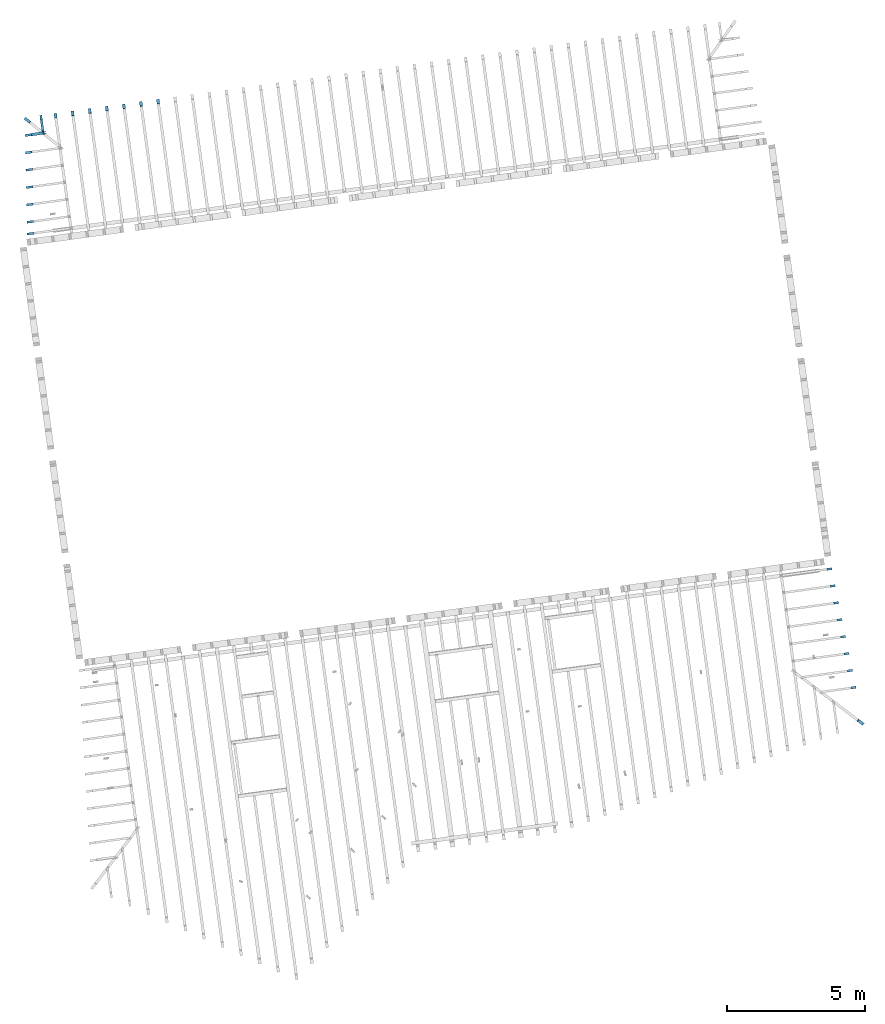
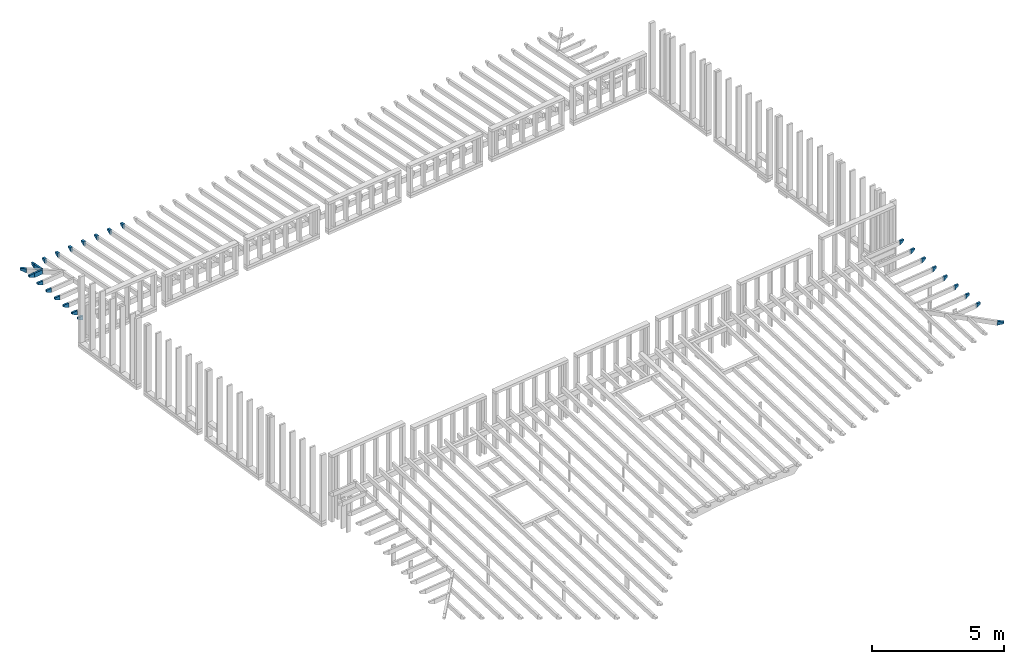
# One storey, part 14 of 16: 27 building element parts, 25 elements without a shape of their own.
"""IFC2X3 building model written with IfcOpenShell, lengths in metres."""

from ifc_helpers import new_model, entity, si_unit, converted_unit, derived_unit, money_unit, direction, frame, origin_with_axes, place, context, subcontext, project, spatial, faceted_brep, material, type_object, element, aggregate, save


model = new_model("IFC2X3")

# Units and contexts
model_context = context("Model", 3, precision=1e-05, world=origin_with_axes(), true_north=direction((0.0, 1.0)))
body_context = subcontext(model_context, "Body", "Model", "MODEL_VIEW")
ifc_project = project(units=[si_unit("LENGTHUNIT", "METRE"), si_unit("AREAUNIT", "SQUARE_METRE"), si_unit("VOLUMEUNIT", "CUBIC_METRE"), converted_unit("PLANEANGLEUNIT", "DEGREE", entity("IfcPlaneAngleMeasure", 0.0174532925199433), si_unit("PLANEANGLEUNIT", "RADIAN"), dimensions=[0, 0, 0, 0, 0, 0, 0]), money_unit("EUR"), converted_unit("TIMEUNIT", "Year", entity("IfcTimeMeasure", 31557600.0), si_unit("TIMEUNIT", "SECOND"), dimensions=[0, 0, 1, 0, 0, 0, 0]), si_unit("MASSUNIT", "GRAM", prefix="KILO"), si_unit("THERMODYNAMICTEMPERATUREUNIT", "DEGREE_CELSIUS"), si_unit("LUMINOUSINTENSITYUNIT", "LUMEN"), si_unit("ENERGYUNIT", "JOULE", prefix="MEGA"), derived_unit("THERMALCONDUCTANCEUNIT", [(si_unit("POWERUNIT", "WATT"), 1), (si_unit("LENGTHUNIT", "METRE"), -1), (si_unit("THERMODYNAMICTEMPERATUREUNIT", "KELVIN"), -1)]), derived_unit("SPECIFICHEATCAPACITYUNIT", [(si_unit("ENERGYUNIT", "JOULE"), 1), (si_unit("MASSUNIT", "GRAM", prefix="KILO"), -1), (si_unit("THERMODYNAMICTEMPERATUREUNIT", "KELVIN"), -1)]), derived_unit("MASSDENSITYUNIT", [(si_unit("MASSUNIT", "GRAM", prefix="KILO"), 1), (si_unit("VOLUMEUNIT", "CUBIC_METRE"), -1)])], contexts=[model_context])

# Site, building, storey
site_placement = place(None, origin_with_axes())
site = spatial("IfcSite", under=ifc_project, at=site_placement, Name="Gelände", CompositionType="ELEMENT")
building_placement = place(site_placement, origin_with_axes())
building = spatial("IfcBuilding", under=site, at=building_placement, Name="Gebäude", CompositionType="ELEMENT")
storey_placement = place(building_placement, frame((0.0, 0.0, 3.0), z_axis=(0.0, 0.0, 1.0), x_axis=(1.0, 0.0, 0.0)))
storey = spatial("IfcBuildingStorey", under=building, at=storey_placement, Name="ZG", CompositionType="ELEMENT", Elevation=3.0)

# Beam, building element part
beam_type_1 = type_object("IfcBeamType", Name="Verschiedene Strukturen - 2 Segmente - 100 x 200 x 4381 (4214+167)", PredefinedType="NOTDEFINED")
beam_1_placement = place(storey_placement, frame((86.89870892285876, -135.3424017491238, 1.028226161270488), z_axis=(0.0, 0.0, 1.0), x_axis=(0.9907484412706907, 0.1357111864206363, 0.0)))
beam_1 = element("IfcBeam", 1, at=beam_1_placement, inside=storey, type_object=beam_type_1, Name="Unterzug-034")
ifc_material = material(Name="Holz, Bauholz-hart")
building_element_part_1_placement = place(beam_1_placement, origin_with_axes())
building_element_part_1 = element("IfcBuildingElementPart", 2, at=building_element_part_1_placement, material=ifc_material, Name="Holz, Bauholz-hart", context=body_context, shape_type="Brep", body=[
    faceted_brep([(0.04999999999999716, 4.370583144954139, -0.3091623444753), (0.04999999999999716, 4.197525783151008, -0.4202574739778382), (-0.05000000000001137, 4.197525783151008, -0.4202574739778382), (-0.04999999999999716, 4.370583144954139, -0.3091623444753), (0.04999999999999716, 4.374770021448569, -0.2292719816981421), (0.05000000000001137, 4.207992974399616, -0.2205315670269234), (-0.04999999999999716, 4.207992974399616, -0.2205315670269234), (-0.04999999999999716, 4.374770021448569, -0.2292719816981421)], [[[0, 1, 2, 3]], [[4, 5, 1, 0]], [[5, 6, 2, 1]], [[3, 2, 6, 7]], [[4, 0, 3, 7]], [[7, 6, 5, 4]]]),
])
aggregate(beam_1, [building_element_part_1])

beam_type_2 = type_object("IfcBeamType", Name="Verschiedene Strukturen - 2 Segmente - 80 x 200 x 1897 (183+1715)", PredefinedType="NOTDEFINED")
beam_2_placement = place(storey_placement, frame((113.8209712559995, -147.5921326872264, 1.799619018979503), z_axis=(0.0, 0.0, 1.0), x_axis=(-0.135711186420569, 0.9907484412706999, 0.0)))
beam_2 = element("IfcBeam", 3, at=beam_2_placement, inside=storey, type_object=beam_type_2, Name="Unterzug-034")
building_element_part_2_placement = place(beam_2_placement, origin_with_axes())
building_element_part_2 = element("IfcBuildingElementPart", 4, at=building_element_part_2_placement, material=ifc_material, Name="Holz, Bauholz-hart", context=body_context, shape_type="Brep", body=[
    faceted_brep([(0.04000000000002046, 0.1825028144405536, -0.2000000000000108), (0.03999999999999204, 0.0, -0.08000000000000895), (-0.03999999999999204, 0.0, -0.08000000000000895), (-0.03999999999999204, 0.1825028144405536, -0.2000000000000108), (0.04000000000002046, 0.1825028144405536, 0.0), (0.03999999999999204, 0.0, 0.0), (-0.03999999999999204, 0.0, 0.0), (-0.03999999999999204, 0.1825028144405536, 0.0)], [[[0, 1, 2, 3]], [[4, 5, 1, 0]], [[5, 6, 2, 1]], [[3, 2, 6, 7]], [[4, 0, 3, 7]], [[7, 6, 5, 4]]]),
])
aggregate(beam_2, [building_element_part_2])

beam_type_3 = type_object("IfcBeamType", Name="Verschiedene Strukturen - 2 Segmente - 80 x 200 x 1397 (183+1214)", PredefinedType="NOTDEFINED")
beam_3_placement = place(storey_placement, frame((114.6995693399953, -151.8876372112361, 1.184752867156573), z_axis=(0.0, 0.0, 1.0), x_axis=(-0.1357111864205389, 0.990748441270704, 0.0)))
beam_3 = element("IfcBeam", 5, at=beam_3_placement, inside=storey, type_object=beam_type_3, Name="Unterzug-034")
building_element_part_3_placement = place(beam_3_placement, origin_with_axes())
building_element_part_3 = element("IfcBuildingElementPart", 6, at=building_element_part_3_placement, material=ifc_material, Name="Holz, Bauholz-hart", context=body_context, shape_type="Brep", body=[
    faceted_brep([(0.03999999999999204, 0.1825028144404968, -0.1999999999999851), (0.03999999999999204, 0.0, -0.0799999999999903), (-0.03999999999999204, 0.0, -0.0799999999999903), (-0.04000000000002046, 0.1825028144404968, -0.1999999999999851), (0.03999999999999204, 0.1825028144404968, 0.0), (0.03999999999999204, 0.0, 0.0), (-0.03999999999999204, 0.0, 0.0), (-0.04000000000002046, 0.1825028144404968, 0.0)], [[[0, 1, 2, 3]], [[4, 5, 1, 0]], [[5, 6, 2, 1]], [[3, 2, 6, 7]], [[4, 0, 3, 7]], [[7, 6, 5, 4]]]),
])
aggregate(beam_3, [building_element_part_3])

beam_type_4 = type_object("IfcBeamType", Name="Verschiedene Strukturen - 2 Segmente - 80 x 200 x 1981 (183+1798)", PredefinedType="NOTDEFINED")
beam_4_placement = place(storey_placement, frame((114.5740553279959, -151.2739937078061, 1.272590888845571), z_axis=(0.0, 0.0, 1.0), x_axis=(-0.1357111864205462, 0.990748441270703, 0.0)))
beam_4 = element("IfcBeam", 7, at=beam_4_placement, inside=storey, type_object=beam_type_4, Name="Unterzug-034")
building_element_part_4_placement = place(beam_4_placement, origin_with_axes())
building_element_part_4 = element("IfcBuildingElementPart", 8, at=building_element_part_4_placement, material=ifc_material, Name="Holz, Bauholz-hart", context=body_context, shape_type="Brep", body=[
    faceted_brep([(0.04000000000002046, 0.182502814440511, -0.1999999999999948), (0.04000000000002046, 0.0, -0.08000000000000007), (-0.03999999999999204, 0.0, -0.08000000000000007), (-0.03999999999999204, 0.1825028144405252, -0.1999999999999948), (0.04000000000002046, 0.182502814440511, 0.0), (0.04000000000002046, 0.0, 0.0), (-0.03999999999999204, 0.0, 0.0), (-0.03999999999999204, 0.1825028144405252, 0.0)], [[[0, 1, 2, 3]], [[4, 5, 1, 0]], [[5, 6, 2, 1]], [[3, 2, 6, 7]], [[4, 0, 3, 7]], [[7, 6, 5, 4]]]),
])
aggregate(beam_4, [building_element_part_4])

beam_type_5 = type_object("IfcBeamType", Name="Verschiedene Strukturen - 2 Segmente - 80 x 200 x 1938 (183+1756)", PredefinedType="NOTDEFINED")
beam_5_placement = place(storey_placement, frame((113.9464852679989, -148.2057761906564, 1.711780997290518), z_axis=(0.0, 0.0, 1.0), x_axis=(-0.1357111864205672, 0.9907484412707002, 0.0)))
beam_5 = element("IfcBeam", 9, at=beam_5_placement, inside=storey, type_object=beam_type_5, Name="Unterzug-034")
building_element_part_5_placement = place(beam_5_placement, origin_with_axes())
building_element_part_5 = element("IfcBuildingElementPart", 10, at=building_element_part_5_placement, material=ifc_material, Name="Holz, Bauholz-hart", context=body_context, shape_type="Brep", body=[
    faceted_brep([(0.04000000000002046, 0.1825028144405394, -0.1999999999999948), (0.04000000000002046, 0.0, -0.08000000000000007), (-0.03999999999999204, 0.0, -0.08000000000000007), (-0.03999999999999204, 0.1825028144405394, -0.1999999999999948), (0.04000000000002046, 0.1825028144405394, 0.0), (0.04000000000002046, 0.0, 0.0), (-0.03999999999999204, 0.0, 0.0), (-0.03999999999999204, 0.1825028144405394, 0.0)], [[[0, 1, 2, 3]], [[4, 5, 1, 0]], [[5, 6, 2, 1]], [[3, 2, 6, 7]], [[4, 0, 3, 7]], [[7, 6, 5, 4]]]),
])
aggregate(beam_5, [building_element_part_5])

beam_type_6 = type_object("IfcBeamType", Name="Verschiedene Strukturen - 2 Segmente - 80 x 200 x 1979 (183+1797)", PredefinedType="NOTDEFINED")
beam_6_placement = place(storey_placement, frame((114.0719992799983, -148.8194196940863, 1.623942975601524), z_axis=(0.0, 0.0, 1.0), x_axis=(-0.1357111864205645, 0.9907484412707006, 0.0)))
beam_6 = element("IfcBeam", 11, at=beam_6_placement, inside=storey, type_object=beam_type_6, Name="Unterzug-034")
building_element_part_6_placement = place(beam_6_placement, origin_with_axes())
building_element_part_6 = element("IfcBuildingElementPart", 12, at=building_element_part_6_placement, material=ifc_material, Name="Holz, Bauholz-hart", context=body_context, shape_type="Brep", body=[
    faceted_brep([(0.04000000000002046, 0.182502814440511, -0.2000000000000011), (0.04000000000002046, 0.0, -0.08000000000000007), (-0.03999999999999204, 0.0, -0.08000000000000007), (-0.03999999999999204, 0.1825028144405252, -0.2000000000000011), (0.04000000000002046, 0.182502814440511, 0.0), (0.04000000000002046, 0.0, 0.0), (-0.03999999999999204, 0.0, 0.0), (-0.03999999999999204, 0.1825028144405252, 0.0)], [[[0, 1, 2, 3]], [[4, 5, 1, 0]], [[5, 6, 2, 1]], [[3, 2, 6, 7]], [[4, 0, 3, 7]], [[7, 6, 5, 4]]]),
])
aggregate(beam_6, [building_element_part_6])

beam_type_7 = type_object("IfcBeamType", Name="Verschiedene Strukturen - 2 Segmente - 100 x 200 x 3283 (248+3035)", PredefinedType="NOTDEFINED")
beam_7_placement = place(storey_placement, frame((114.9690103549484, -153.2338985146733, 0.9921595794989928), z_axis=(0.0, 0.0, 1.0), x_axis=(0.604602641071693, 0.7965272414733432, 0.0)))
beam_7 = element("IfcBeam", 13, at=beam_7_placement, inside=storey, type_object=beam_type_7, Name="Unterzug-034")
building_element_part_7_placement = place(beam_7_placement, origin_with_axes())
building_element_part_7 = element("IfcBuildingElementPart", 14, at=building_element_part_7_placement, material=ifc_material, Name="Holz, Bauholz-hart", context=body_context, shape_type="Brep", body=[
    faceted_brep([(0.04999999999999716, 0.2586016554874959, -0.1752860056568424), (0.05000000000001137, 0.0, -0.07658848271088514), (-0.04999999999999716, 0.0, -0.07658848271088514), (-0.05000000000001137, 0.2586016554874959, -0.1752860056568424), (0.05000000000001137, 0.2388236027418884, 0.02373366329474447), (0.05000000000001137, 0.0, 0.0), (-0.04999999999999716, 0.0, 0.0), (-0.04999999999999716, 0.2388236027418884, 0.02373366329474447)], [[[0, 1, 2, 3]], [[4, 5, 1, 0]], [[5, 6, 2, 1]], [[3, 2, 6, 7]], [[4, 0, 3, 7]], [[7, 6, 5, 4]]]),
])
aggregate(beam_7, [building_element_part_7])

beam_8_placement = place(storey_placement, frame((86.27949114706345, -135.4272212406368, 1.028226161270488), z_axis=(0.0, 0.0, 1.0), x_axis=(0.9907484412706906, 0.1357111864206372, 0.0)))
beam_8 = element("IfcBeam", 15, at=beam_8_placement, inside=storey, type_object=beam_type_1, Name="Unterzug-034")
building_element_part_8_placement = place(beam_8_placement, origin_with_axes())
building_element_part_8 = element("IfcBuildingElementPart", 16, at=building_element_part_8_placement, material=ifc_material, Name="Holz, Bauholz-hart", context=body_context, shape_type="Brep", body=[
    faceted_brep([(0.04999999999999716, 4.370321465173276, -0.3141554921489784), (0.04999999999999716, 4.197525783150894, -0.420257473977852), (-0.04999999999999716, 4.197525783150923, -0.420257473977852), (-0.04999999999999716, 4.370321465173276, -0.3141554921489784), (0.05000000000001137, 4.374770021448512, -0.2292719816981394), (0.04999999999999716, 4.207992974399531, -0.2205315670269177), (-0.05000000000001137, 4.207992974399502, -0.2205315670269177), (-0.05000000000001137, 4.374770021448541, -0.2292719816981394)], [[[0, 1, 2, 3]], [[4, 5, 1, 0]], [[5, 6, 2, 1]], [[3, 2, 6, 7]], [[4, 0, 3, 7]], [[7, 6, 5, 4]]]),
])
aggregate(beam_8, [building_element_part_8])

beam_type_8 = type_object("IfcBeamType", Name="Verschiedene Strukturen - 2 Segmente - 80 x 200 x 2021 (183+1838)", PredefinedType="NOTDEFINED")
beam_9_placement = place(storey_placement, frame((114.1975132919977, -149.4330631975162, 1.536104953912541), z_axis=(0.0, 0.0, 1.0), x_axis=(-0.1357111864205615, 0.9907484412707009, 0.0)))
beam_9 = element("IfcBeam", 17, at=beam_9_placement, inside=storey, type_object=beam_type_8, Name="Unterzug-034")
building_element_part_9_placement = place(beam_9_placement, origin_with_axes())
building_element_part_9 = element("IfcBuildingElementPart", 18, at=building_element_part_9_placement, material=ifc_material, Name="Holz, Bauholz-hart", context=body_context, shape_type="Brep", body=[
    faceted_brep([(0.03999999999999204, 0.1825028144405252, -0.1999999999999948), (0.03999999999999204, 0.0, -0.08000000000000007), (-0.04000000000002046, 0.0, -0.08000000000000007), (-0.03999999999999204, 0.182502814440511, -0.1999999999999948), (0.03999999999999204, 0.1825028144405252, 0.0), (0.03999999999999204, 0.0, 0.0), (-0.04000000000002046, 0.0, 0.0), (-0.03999999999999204, 0.182502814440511, 0.0)], [[[0, 1, 2, 3]], [[4, 5, 1, 0]], [[5, 6, 2, 1]], [[3, 2, 6, 7]], [[4, 0, 3, 7]], [[7, 6, 5, 4]]]),
])
aggregate(beam_9, [building_element_part_9])

beam_type_9 = type_object("IfcBeamType", Name="Verschiedene Strukturen - 2 Segmente - 80 x 200 x 2103 (183+1920)", PredefinedType="NOTDEFINED")
beam_10_placement = place(storey_placement, frame((114.4485413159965, -150.6603502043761, 1.360428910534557), z_axis=(0.0, 0.0, 1.0), x_axis=(-0.1357111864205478, 0.9907484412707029, 0.0)))
beam_10 = element("IfcBeam", 19, at=beam_10_placement, inside=storey, type_object=beam_type_9, Name="Unterzug-034")
building_element_part_10_placement = place(beam_10_placement, origin_with_axes())
building_element_part_10 = element("IfcBuildingElementPart", 20, at=building_element_part_10_placement, material=ifc_material, Name="Holz, Bauholz-hart", context=body_context, shape_type="Brep", body=[
    faceted_brep([(0.03999999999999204, 0.1825028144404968, -0.1999999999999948), (0.03999999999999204, 0.0, -0.08000000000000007), (-0.04000000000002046, 0.0, -0.08000000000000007), (-0.03999999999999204, 0.182502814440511, -0.1999999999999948), (0.03999999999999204, 0.1825028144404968, 0.0), (0.03999999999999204, 0.0, 0.0), (-0.04000000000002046, 0.0, 0.0), (-0.03999999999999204, 0.182502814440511, 0.0)], [[[0, 1, 2, 3]], [[4, 5, 1, 0]], [[5, 6, 2, 1]], [[3, 2, 6, 7]], [[4, 0, 3, 7]], [[7, 6, 5, 4]]]),
])
aggregate(beam_10, [building_element_part_10])

beam_type_10 = type_object("IfcBeamType", Name="Verschiedene Strukturen - 2 Segmente - 80 x 200 x 2062 (183+1879)", PredefinedType="NOTDEFINED")
beam_11_placement = place(storey_placement, frame((114.3230273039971, -150.0467067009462, 1.448266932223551), z_axis=(0.0, 0.0, 1.0), x_axis=(-0.135711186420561, 0.9907484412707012, 0.0)))
beam_11 = element("IfcBeam", 21, at=beam_11_placement, inside=storey, type_object=beam_type_10, Name="Unterzug-034")
building_element_part_11_placement = place(beam_11_placement, origin_with_axes())
building_element_part_11 = element("IfcBuildingElementPart", 22, at=building_element_part_11_placement, material=ifc_material, Name="Holz, Bauholz-hart", context=body_context, shape_type="Brep", body=[
    faceted_brep([(0.03999999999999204, 0.182502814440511, -0.1999999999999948), (0.03999999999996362, 0.0, -0.08000000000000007), (-0.04000000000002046, 0.0, -0.08000000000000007), (-0.04000000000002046, 0.182502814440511, -0.1999999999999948), (0.03999999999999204, 0.182502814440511, 0.0), (0.03999999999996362, 0.0, 0.0), (-0.04000000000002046, 0.0, 0.0), (-0.04000000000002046, 0.182502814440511, 0.0)], [[[0, 1, 2, 3]], [[4, 5, 1, 0]], [[5, 6, 2, 1]], [[3, 2, 6, 7]], [[4, 0, 3, 7]], [[7, 6, 5, 4]]]),
])
aggregate(beam_11, [building_element_part_11])

beam_type_11 = type_object("IfcBeamType", Name="Verschiedene Strukturen - 2 Segmente - 80 x 200 x 1652 (1412+240)", PredefinedType="NOTDEFINED")
beam_12_placement = place(storey_placement, frame((86.2556638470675, -135.2532719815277, 1.019024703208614), z_axis=(0.0, 0.0, 1.0), x_axis=(-0.1357111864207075, 0.990748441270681, 0.0)))
beam_12 = element("IfcBeam", 23, at=beam_12_placement, inside=storey, type_object=beam_type_11, Name="Unterzug-034")
building_element_part_12_placement = place(beam_12_placement, origin_with_axes())
building_element_part_12 = element("IfcBuildingElementPart", 24, at=building_element_part_12_placement, material=ifc_material, Name="Holz, Bauholz-hart", context=body_context, shape_type="Brep", body=[
    faceted_brep([(0.03999999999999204, 1.602367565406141, -0.08499999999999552), (0.03999999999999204, 1.362367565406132, -0.2000000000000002), (-0.04000000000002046, 1.362367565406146, -0.2000000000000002), (-0.04000000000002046, 1.602367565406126, -0.08499999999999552), (0.03999999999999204, 1.602367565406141, 0.0), (0.03999999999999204, 1.362367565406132, 0.0), (-0.04000000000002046, 1.362367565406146, 0.0), (-0.04000000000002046, 1.602367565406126, 0.0)], [[[0, 1, 2, 3]], [[4, 5, 1, 0]], [[5, 6, 2, 1]], [[3, 2, 6, 7]], [[4, 0, 3, 7]], [[7, 6, 5, 4]]]),
])
aggregate(beam_12, [building_element_part_12])

beam_type_12 = type_object("IfcBeamType", Name="Verschiedene Strukturen - 2 Segmente - 80 x 200 x 1603 (1363+240)", PredefinedType="NOTDEFINED")
beam_13_placement = place(storey_placement, frame((86.1979865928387, -134.8322038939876, 0.9967513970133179), z_axis=(0.0, 0.0, 1.0), x_axis=(-0.1357111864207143, 0.9907484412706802, 0.0)))
beam_13 = element("IfcBeam", 25, at=beam_13_placement, inside=storey, type_object=beam_type_12, Name="Unterzug-034")
building_element_part_13_placement = place(beam_13_placement, origin_with_axes())
building_element_part_13 = element("IfcBuildingElementPart", 26, at=building_element_part_13_placement, material=ifc_material, Name="Holz, Bauholz-hart", context=body_context, shape_type="Brep", body=[
    faceted_brep([(0.03999999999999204, 1.552948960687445, -0.08499999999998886), (0.03999999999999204, 1.312948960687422, -0.1999999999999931), (-0.04000000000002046, 1.31294896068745, -0.1999999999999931), (-0.03999999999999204, 1.552948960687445, -0.08499999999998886), (0.03999999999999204, 1.552948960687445, 0.0), (0.03999999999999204, 1.312948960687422, 0.0), (-0.04000000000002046, 1.31294896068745, 0.0), (-0.03999999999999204, 1.552948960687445, 0.0)], [[[0, 1, 2, 3]], [[4, 5, 1, 0]], [[5, 6, 2, 1]], [[3, 2, 6, 7]], [[4, 0, 3, 7]], [[7, 6, 5, 4]]]),
])
aggregate(beam_13, [building_element_part_13])

beam_type_13 = type_object("IfcBeamType", Name="Verschiedene Strukturen - 2 Segmente - 80 x 200 x 1530 (1290+240)", PredefinedType="NOTDEFINED")
beam_14_placement = place(storey_placement, frame((86.11316710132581, -134.2129861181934, 0.963996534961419), z_axis=(0.0, 0.0, 1.0), x_axis=(-0.1357111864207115, 0.9907484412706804, 0.0)))
beam_14 = element("IfcBeam", 27, at=beam_14_placement, inside=storey, type_object=beam_type_13, Name="Unterzug-034")
building_element_part_14_placement = place(beam_14_placement, origin_with_axes())
building_element_part_14 = element("IfcBuildingElementPart", 28, at=building_element_part_14_placement, material=ifc_material, Name="Holz, Bauholz-hart", context=body_context, shape_type="Brep", body=[
    faceted_brep([(0.03999999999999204, 1.480274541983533, -0.08499999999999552), (0.03999999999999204, 1.240274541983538, -0.1999999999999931), (-0.04000000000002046, 1.240274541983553, -0.1999999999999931), (-0.04000000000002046, 1.480274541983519, -0.08499999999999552), (0.03999999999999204, 1.480274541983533, 0.0), (0.03999999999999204, 1.240274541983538, 0.0), (-0.04000000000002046, 1.240274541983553, 0.0), (-0.04000000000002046, 1.480274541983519, 0.0)], [[[0, 1, 2, 3]], [[4, 5, 1, 0]], [[5, 6, 2, 1]], [[3, 2, 6, 7]], [[4, 0, 3, 7]], [[7, 6, 5, 4]]]),
])
aggregate(beam_14, [building_element_part_14])

beam_type_14 = type_object("IfcBeamType", Name="Verschiedene Strukturen - 2 Segmente - 80 x 200 x 1458 (1218+240)", PredefinedType="NOTDEFINED")
beam_15_placement = place(storey_placement, frame((86.02834760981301, -133.5937683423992, 0.9312416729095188), z_axis=(0.0, 0.0, 1.0), x_axis=(-0.1357111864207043, 0.9907484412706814, 0.0)))
beam_15 = element("IfcBeam", 29, at=beam_15_placement, inside=storey, type_object=beam_type_14, Name="Unterzug-034")
building_element_part_15_placement = place(beam_15_placement, origin_with_axes())
building_element_part_15 = element("IfcBuildingElementPart", 30, at=building_element_part_15_placement, material=ifc_material, Name="Holz, Bauholz-hart", context=body_context, shape_type="Brep", body=[
    faceted_brep([(0.04000000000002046, 1.407600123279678, -0.08499999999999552), (0.03999999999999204, 1.167600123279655, -0.2000000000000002), (-0.04000000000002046, 1.167600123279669, -0.2000000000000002), (-0.04000000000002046, 1.407600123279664, -0.08499999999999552), (0.04000000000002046, 1.407600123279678, 0.0), (0.03999999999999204, 1.167600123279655, 0.0), (-0.04000000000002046, 1.167600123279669, 0.0), (-0.04000000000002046, 1.407600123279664, 0.0)], [[[0, 1, 2, 3]], [[4, 5, 1, 0]], [[5, 6, 2, 1]], [[3, 2, 6, 7]], [[4, 0, 3, 7]], [[7, 6, 5, 4]]]),
])
aggregate(beam_15, [building_element_part_15])

beam_type_15 = type_object("IfcBeamType", Name="Verschiedene Strukturen - 2 Segmente - 80 x 200 x 1385 (1145+240)", PredefinedType="NOTDEFINED")
beam_16_placement = place(storey_placement, frame((85.94352811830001, -132.9745505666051, 0.8984868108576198), z_axis=(0.0, 0.0, 1.0), x_axis=(-0.1357111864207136, 0.9907484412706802, 0.0)))
beam_16 = element("IfcBeam", 31, at=beam_16_placement, inside=storey, type_object=beam_type_15, Name="Unterzug-034")
building_element_part_16_placement = place(beam_16_placement, origin_with_axes())
building_element_part_16 = element("IfcBuildingElementPart", 32, at=building_element_part_16_placement, material=ifc_material, Name="Holz, Bauholz-hart", context=body_context, shape_type="Brep", body=[
    faceted_brep([(0.03999999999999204, 1.33492570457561, -0.08500000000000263), (0.03999999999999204, 1.094925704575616, -0.2000000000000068), (-0.04000000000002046, 1.09492570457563, -0.2000000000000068), (-0.04000000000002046, 1.33492570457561, -0.08500000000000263), (0.03999999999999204, 1.33492570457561, 0.0), (0.03999999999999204, 1.094925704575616, 0.0), (-0.04000000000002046, 1.09492570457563, 0.0), (-0.04000000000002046, 1.33492570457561, 0.0)], [[[0, 1, 2, 3]], [[4, 5, 1, 0]], [[5, 6, 2, 1]], [[3, 2, 6, 7]], [[4, 0, 3, 7]], [[7, 6, 5, 4]]]),
])
aggregate(beam_16, [building_element_part_16])

beam_type_16 = type_object("IfcBeamType", Name="Verschiedene Strukturen - 2 Segmente - 80 x 200 x 1312 (1072+240)", PredefinedType="NOTDEFINED")
beam_17_placement = place(storey_placement, frame((85.85870862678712, -132.3553327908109, 0.865731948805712), z_axis=(0.0, 0.0, 1.0), x_axis=(-0.1357111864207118, 0.9907484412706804, 0.0)))
beam_17 = element("IfcBeam", 33, at=beam_17_placement, inside=storey, type_object=beam_type_16, Name="Unterzug-034")
building_element_part_17_placement = place(beam_17_placement, origin_with_axes())
building_element_part_17 = element("IfcBuildingElementPart", 34, at=building_element_part_17_placement, material=ifc_material, Name="Holz, Bauholz-hart", context=body_context, shape_type="Brep", body=[
    faceted_brep([(0.03999999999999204, 1.262251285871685, -0.08500000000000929), (0.03999999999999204, 1.022251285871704, -0.2000000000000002), (-0.03999999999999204, 1.022251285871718, -0.2000000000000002), (-0.03999999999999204, 1.262251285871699, -0.08500000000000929), (0.03999999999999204, 1.262251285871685, 0.0), (0.03999999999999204, 1.022251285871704, 0.0), (-0.03999999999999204, 1.022251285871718, 0.0), (-0.03999999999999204, 1.262251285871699, 0.0)], [[[0, 1, 2, 3]], [[4, 5, 1, 0]], [[5, 6, 2, 1]], [[3, 2, 6, 7]], [[4, 0, 3, 7]], [[7, 6, 5, 4]]]),
])
aggregate(beam_17, [building_element_part_17])

beam_type_17 = type_object("IfcBeamType", Name="Verschiedene Strukturen - 2 Segmente - 80 x 200 x 757 (517+240)", PredefinedType="NOTDEFINED")
beam_18_placement = place(storey_placement, frame((85.24146001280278, -131.8090463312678, 0.8329771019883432), z_axis=(0.0, 0.0, 1.0), x_axis=(-0.135711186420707, 0.9907484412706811, 0.0)))
beam_18 = element("IfcBeam", 35, at=beam_18_placement, inside=storey, type_object=beam_type_17, Name="Unterzug-034")
building_element_part_18_placement = place(beam_18_placement, origin_with_axes())
building_element_part_18 = element("IfcBuildingElementPart", 36, at=building_element_part_18_placement, material=ifc_material, Name="Holz, Bauholz-hart", context=body_context, shape_type="Brep", body=[
    faceted_brep([(-0.03999999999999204, 0.4121759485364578, 0.0), (-0.03999999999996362, 0.03110007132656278, 0.0), (-0.03398706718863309, 0.03667265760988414, 0.0), (0.03398693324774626, -0.03667265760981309, 0.0), (0.03398693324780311, -0.105241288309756, 0.0), (0.03999999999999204, -0.1052412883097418, 0.0), (0.04000000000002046, 0.412175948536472, 0.0), (-0.03999999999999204, -0.105241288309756, -0.199832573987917), (-0.03999999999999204, 0.03110007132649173, -0.1998325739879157), (-0.03999999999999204, 0.4121759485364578, -0.2000000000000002), (-0.03999999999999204, -0.105241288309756, -0.2000000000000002), (0.03999999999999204, 0.1052414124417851, -0.003877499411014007), (-0.03680532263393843, 0.03406079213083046, -0.1999999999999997), (0.04000000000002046, 0.1052414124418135, -0.2000000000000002), (0.03999999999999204, -0.03109994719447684, -0.0003151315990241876), (0.03999999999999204, -0.1052412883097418, -0.0003151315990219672), (0.04000000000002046, 0.412175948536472, -0.2000000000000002), (-0.03680532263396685, -0.105241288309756, -0.2000000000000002)], [[[0, 1, 2, 3, 4, 5, 6]], [[7, 8, 1, 0, 9, 10]], [[11, 2, 1, 8, 12, 13]], [[11, 14, 3, 2]], [[4, 3, 14, 15]], [[15, 5, 4]], [[14, 11, 13, 16, 6, 5, 15]], [[0, 6, 16, 9]], [[17, 12, 8, 7]], [[16, 13, 12, 17, 10, 9]], [[7, 10, 17]]]),
])

# Beam, building element parts
beam_type_18 = type_object("IfcBeamType", Name="Verschiedene Strukturen - 2 Segmente - 80 x 200 x 696 (529+167)", PredefinedType="NOTDEFINED")
beam_19_placement = place(storey_placement, frame((85.24987622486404, -131.8159538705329, 0.8333956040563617), z_axis=(0.0, 0.0, 1.0), x_axis=(0.9907484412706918, 0.1357111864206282, 0.0)))
beam_19 = element("IfcBeam", 37, at=beam_19_placement, inside=storey, type_object=beam_type_18, Name="Unterzug-034")
building_element_part_19_placement = place(beam_19_placement, origin_with_axes())
building_element_part_19 = element("IfcBuildingElementPart", 38, at=building_element_part_19_placement, material=ifc_material, Name="Holz, Bauholz-hart", context=body_context, shape_type="Brep", body=[
    faceted_brep([(-0.04000000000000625, 0.1167183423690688, -0.2044834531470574), (0.03188360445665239, 0.03915448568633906, -0.2004185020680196), (0.0400000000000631, 0.03039673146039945, -0.199959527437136), (0.04000000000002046, 0.03039673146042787, -0.001593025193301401), (-0.03999999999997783, 0.1167183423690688, -0.006116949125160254), (0.04000000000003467, -0.04839663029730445, -0.197738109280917), (-0.04000000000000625, 0.03792505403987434, -0.2022620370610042), (0.04000000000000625, 0.4799380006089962, -0.2254269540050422), (0.04000000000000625, 0.490405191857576, -0.02570104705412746), (-0.03999999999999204, 0.4904051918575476, -0.02570104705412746), (-0.03999999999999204, 0.4799380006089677, -0.2254269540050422)], [[[0, 1, 2, 3, 4]], [[5, 2, 1, 0, 6]], [[2, 5, 7, 8, 3]], [[9, 4, 3, 8]], [[6, 0, 4, 9, 10]], [[7, 5, 6, 10]], [[10, 9, 8, 7]]]),
])
building_element_part_20_placement = place(beam_19_placement, origin_with_axes())
building_element_part_20 = element("IfcBuildingElementPart", 39, at=building_element_part_20_placement, material=ifc_material, Name="Holz, Bauholz-hart", context=body_context, shape_type="Brep", body=[
    faceted_brep([(0.04000000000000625, 0.6527336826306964, -0.1193249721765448), (0.04000000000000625, 0.4799380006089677, -0.2254269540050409), (-0.03999999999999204, 0.4799380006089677, -0.2254269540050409), (-0.03999999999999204, 0.652733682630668, -0.1193249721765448), (0.04000000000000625, 0.6571822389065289, -0.03444146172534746), (0.04000000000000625, 0.490405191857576, -0.02570104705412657), (-0.03999999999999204, 0.4904051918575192, -0.02570104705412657), (-0.03999999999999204, 0.6571822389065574, -0.03444146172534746)], [[[0, 1, 2, 3]], [[4, 5, 1, 0]], [[5, 6, 2, 1]], [[3, 2, 6, 7]], [[4, 0, 3, 7]], [[7, 6, 5, 4]]]),
])
aggregate(beam_19, [building_element_part_19, building_element_part_20])

# Building element part
building_element_part_21_placement = place(beam_18_placement, origin_with_axes())
building_element_part_21 = element("IfcBuildingElementPart", 40, at=building_element_part_21_placement, material=ifc_material, Name="Holz, Bauholz-hart", context=body_context, shape_type="Brep", body=[
    faceted_brep([(0.04000000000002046, 0.6521759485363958, -0.08500000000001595), (0.04000000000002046, 0.4121759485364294, -0.2000000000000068), (-0.03999999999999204, 0.4121759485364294, -0.2000000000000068), (-0.03999999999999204, 0.65217594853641, -0.08500000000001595), (0.04000000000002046, 0.6521759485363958, 0.0), (0.04000000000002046, 0.4121759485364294, 0.0), (-0.03999999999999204, 0.4121759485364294, 0.0), (-0.03999999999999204, 0.65217594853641, 0.0)], [[[0, 1, 2, 3]], [[4, 5, 1, 0]], [[5, 6, 2, 1]], [[3, 2, 6, 7]], [[4, 0, 3, 7]], [[7, 6, 5, 4]]]),
])

aggregate(beam_18, [building_element_part_18, building_element_part_21])

# Beam, building element part
beam_20_placement = place(storey_placement, frame((87.51792669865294, -135.2575822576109, 1.028226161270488), z_axis=(0.0, 0.0, 1.0), x_axis=(0.9907484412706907, 0.1357111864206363, 0.0)))
beam_20 = element("IfcBeam", 41, at=beam_20_placement, inside=storey, type_object=beam_type_1, Name="Unterzug-034")
building_element_part_22_placement = place(beam_20_placement, origin_with_axes())
building_element_part_22 = element("IfcBuildingElementPart", 42, at=building_element_part_22_placement, material=ifc_material, Name="Holz, Bauholz-hart", context=body_context, shape_type="Brep", body=[
    faceted_brep([(0.04999999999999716, 4.370583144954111, -0.3091623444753), (0.04999999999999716, 4.197525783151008, -0.4202574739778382), (-0.05000000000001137, 4.197525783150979, -0.4202574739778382), (-0.04999999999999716, 4.370583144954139, -0.3091623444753), (0.04999999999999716, 4.374770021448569, -0.2292719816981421), (0.04999999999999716, 4.207992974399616, -0.2205315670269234), (-0.05000000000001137, 4.207992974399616, -0.2205315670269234), (-0.05000000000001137, 4.374770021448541, -0.2292719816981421)], [[[0, 1, 2, 3]], [[4, 5, 1, 0]], [[5, 6, 2, 1]], [[3, 2, 6, 7]], [[4, 0, 3, 7]], [[7, 6, 5, 4]]]),
])
aggregate(beam_20, [building_element_part_22])

beam_21_placement = place(storey_placement, frame((88.13714447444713, -135.172762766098, 1.028226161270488), z_axis=(0.0, 0.0, 1.0), x_axis=(0.9907484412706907, 0.1357111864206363, 0.0)))
beam_21 = element("IfcBeam", 43, at=beam_21_placement, inside=storey, type_object=beam_type_1, Name="Unterzug-034")
building_element_part_23_placement = place(beam_21_placement, origin_with_axes())
building_element_part_23 = element("IfcBuildingElementPart", 44, at=building_element_part_23_placement, material=ifc_material, Name="Holz, Bauholz-hart", context=body_context, shape_type="Brep", body=[
    faceted_brep([(0.05000000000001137, 4.370583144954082, -0.3091623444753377), (0.04999999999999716, 4.197525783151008, -0.4202574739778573), (-0.04999999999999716, 4.197525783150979, -0.4202574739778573), (-0.04999999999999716, 4.370583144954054, -0.3091623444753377), (0.04999999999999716, 4.374770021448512, -0.2292719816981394), (0.04999999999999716, 4.207992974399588, -0.2205315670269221), (-0.05000000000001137, 4.207992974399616, -0.2205315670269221), (-0.04999999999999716, 4.374770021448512, -0.2292719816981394)], [[[0, 1, 2, 3]], [[4, 5, 1, 0]], [[5, 6, 2, 1]], [[3, 2, 6, 7]], [[4, 0, 3, 7]], [[7, 6, 5, 4]]]),
])
aggregate(beam_21, [building_element_part_23])

beam_type_19 = type_object("IfcBeamType", Name="Verschiedene Strukturen - 2 Segmente - 100 x 200 x 1775 (1532+243)", PredefinedType="NOTDEFINED")
beam_22_placement = place(storey_placement, frame((85.85258350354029, -132.3106168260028, 0.8633666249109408), z_axis=(0.0, 0.0, 1.0), x_axis=(0.6344192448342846, 0.7729891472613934, 0.0)))
beam_22 = element("IfcBeam", 45, at=beam_22_placement, inside=storey, type_object=beam_type_19, Name="Unterzug-034")
building_element_part_24_placement = place(beam_22_placement, origin_with_axes())
building_element_part_24 = element("IfcBuildingElementPart", 46, at=building_element_part_24_placement, material=ifc_material, Name="Holz, Bauholz-hart", context=body_context, shape_type="Brep", body=[
    faceted_brep([(0.05000000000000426, 1.643087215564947, -0.1417074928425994), (0.04999999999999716, 1.395582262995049, -0.2537920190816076), (-0.04999999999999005, 1.395582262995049, -0.2537920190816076), (-0.05000000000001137, 1.643087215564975, -0.1417074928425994), (0.05000000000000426, 1.643087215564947, -0.06315808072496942), (0.05000000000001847, 1.403264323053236, -0.05393960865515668), (-0.05000000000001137, 1.403264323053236, -0.05393960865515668), (-0.05000000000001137, 1.643087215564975, -0.06315808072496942)], [[[0, 1, 2, 3]], [[4, 5, 1, 0]], [[5, 6, 2, 1]], [[3, 2, 6, 7]], [[4, 0, 3, 7]], [[7, 6, 5, 4]]]),
])
aggregate(beam_22, [building_element_part_24])

beam_23_placement = place(storey_placement, frame((88.75636225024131, -135.0879432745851, 1.028226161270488), z_axis=(0.0, 0.0, 1.0), x_axis=(0.9907484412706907, 0.1357111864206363, 0.0)))
beam_23 = element("IfcBeam", 47, at=beam_23_placement, inside=storey, type_object=beam_type_1, Name="Unterzug-034")
building_element_part_25_placement = place(beam_23_placement, origin_with_axes())
building_element_part_25 = element("IfcBuildingElementPart", 48, at=building_element_part_25_placement, material=ifc_material, Name="Holz, Bauholz-hart", context=body_context, shape_type="Brep", body=[
    faceted_brep([(0.05000000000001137, 4.370583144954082, -0.3091623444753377), (0.04999999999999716, 4.197525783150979, -0.4202574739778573), (-0.04999999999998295, 4.197525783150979, -0.4202574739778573), (-0.04999999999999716, 4.370583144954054, -0.3091623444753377), (0.04999999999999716, 4.374770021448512, -0.2292719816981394), (0.04999999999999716, 4.207992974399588, -0.2205315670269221), (-0.04999999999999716, 4.207992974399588, -0.2205315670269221), (-0.04999999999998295, 4.374770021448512, -0.2292719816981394)], [[[0, 1, 2, 3]], [[4, 5, 1, 0]], [[5, 6, 2, 1]], [[3, 2, 6, 7]], [[4, 0, 3, 7]], [[7, 6, 5, 4]]]),
])
aggregate(beam_23, [building_element_part_25])

beam_24_placement = place(storey_placement, frame((89.37558002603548, -135.0031237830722, 1.028226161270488), z_axis=(0.0, 0.0, 1.0), x_axis=(0.9907484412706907, 0.1357111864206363, 0.0)))
beam_24 = element("IfcBeam", 49, at=beam_24_placement, inside=storey, type_object=beam_type_1, Name="Unterzug-034")
building_element_part_26_placement = place(beam_24_placement, origin_with_axes())
building_element_part_26 = element("IfcBuildingElementPart", 50, at=building_element_part_26_placement, material=ifc_material, Name="Holz, Bauholz-hart", context=body_context, shape_type="Brep", body=[
    faceted_brep([(0.05000000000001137, 4.370583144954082, -0.3091623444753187), (0.05000000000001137, 4.197525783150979, -0.4202574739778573), (-0.04999999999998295, 4.197525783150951, -0.4202574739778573), (-0.04999999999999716, 4.370583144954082, -0.3091623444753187), (0.05000000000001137, 4.374770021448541, -0.2292719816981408), (0.05000000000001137, 4.207992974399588, -0.2205315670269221), (-0.04999999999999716, 4.207992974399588, -0.2205315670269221), (-0.04999999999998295, 4.374770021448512, -0.2292719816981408)], [[[0, 1, 2, 3]], [[4, 5, 1, 0]], [[5, 6, 2, 1]], [[3, 2, 6, 7]], [[4, 0, 3, 7]], [[7, 6, 5, 4]]]),
])
aggregate(beam_24, [building_element_part_26])

beam_25_placement = place(storey_placement, frame((89.99479780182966, -134.9183042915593, 1.028226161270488), z_axis=(0.0, 0.0, 1.0), x_axis=(0.9907484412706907, 0.1357111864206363, 0.0)))
beam_25 = element("IfcBeam", 51, at=beam_25_placement, inside=storey, type_object=beam_type_1, Name="Unterzug-034")
building_element_part_27_placement = place(beam_25_placement, origin_with_axes())
building_element_part_27 = element("IfcBuildingElementPart", 52, at=building_element_part_27_placement, material=ifc_material, Name="Holz, Bauholz-hart", context=body_context, shape_type="Brep", body=[
    faceted_brep([(0.05000000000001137, 4.370583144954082, -0.3091623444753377), (0.04999999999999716, 4.197525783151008, -0.4202574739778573), (-0.04999999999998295, 4.197525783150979, -0.4202574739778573), (-0.05000000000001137, 4.370583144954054, -0.3091623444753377), (0.04999999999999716, 4.374770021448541, -0.2292719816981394), (0.05000000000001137, 4.207992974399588, -0.2205315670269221), (-0.04999999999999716, 4.207992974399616, -0.2205315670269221), (-0.04999999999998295, 4.374770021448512, -0.2292719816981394)], [[[0, 1, 2, 3]], [[4, 5, 1, 0]], [[5, 6, 2, 1]], [[3, 2, 6, 7]], [[4, 0, 3, 7]], [[7, 6, 5, 4]]]),
])
aggregate(beam_25, [building_element_part_27])

save(model, "model.ifc")
